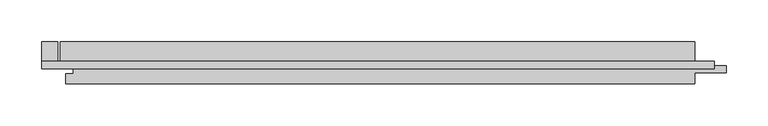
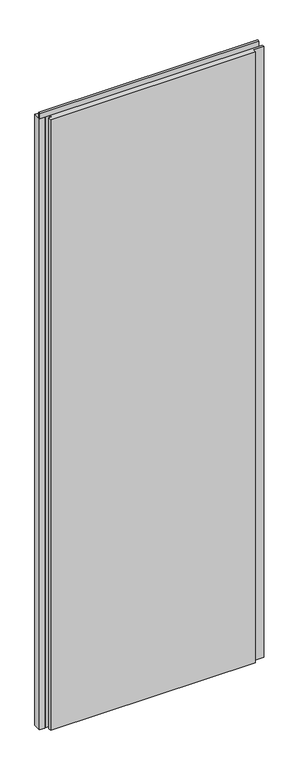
"""IFC4 building model written with IfcOpenShell, lengths in millimetres: plate geometry, Trimo_Qbiss Screen_Normal Panel-VERTICAL : HR - B."""

import ifcopenshell
import ifcopenshell.guid

model = None  # the IFC model being written
_history = None  # IfcOwnerHistory: only IFC2X3 demands one
_inside = {}  # id of a spatial element -> (the spatial element, [elements in it])
_under = {}  # id of a project, library or spatial element -> (it, [spatial elements below it])
_declared = {}  # id of a project -> (the project, [libraries it declares])
_typed = {}  # id of a type object -> (the type object, [elements of that type])
_made_of = {}  # id of a material, layer set ... -> (it, [elements and type objects made of it])


def new_model(schema):
    """Start an empty IFC model of exactly this schema.

    Asked for "IFC4X3", IfcOpenShell would pick the latest addendum, in which some entities
    have other attributes; the version numbers below select the first issue.
    IFC2X3 requires an IfcOwnerHistory on every rooted entity: one is made here for all.
    """
    global model, _history
    if schema == "IFC4X3":
        model = ifcopenshell.file(schema_version=(4, 3, 0, 0))
    else:
        model = ifcopenshell.file(schema=schema)
    _inside.clear()
    _under.clear()
    _declared.clear()
    _typed.clear()
    _made_of.clear()
    _history = None
    if model.schema == "IFC2X3":
        org = make("IfcOrganization", Name="unknown")
        user = make(
            "IfcPersonAndOrganization",
            ThePerson=make("IfcPerson", FamilyName="unknown"),
            TheOrganization=org,
        )
        app = make(
            "IfcApplication",
            ApplicationDeveloper=org,
            Version="unknown",
            ApplicationFullName="unknown",
            ApplicationIdentifier="unknown",
        )
        _history = make(
            "IfcOwnerHistory",
            OwningUser=user,
            OwningApplication=app,
            ChangeAction="ADDED",
            CreationDate=0,
        )
    return model


def make(cls, **values):
    """One entity of the class cls with the attributes given. An attribute that is None is left unset."""
    return model.create_entity(
        cls, **{name: value for name, value in values.items() if value is not None}
    )


def rooted(cls, **values):
    """An entity with a GlobalId (a new one), such as an element, a storey or a relation."""
    return make(cls, GlobalId=ifcopenshell.guid.new(), OwnerHistory=_history, **values)


def si_unit(unit_type, name, prefix=None):
    """IfcSIUnit, for example si_unit("LENGTHUNIT", "METRE", prefix="MILLI")."""
    return make("IfcSIUnit", UnitType=unit_type, Prefix=prefix, Name=name)


def assignment(units):
    """IfcUnitAssignment: the units of a project."""
    return None if units is None else make("IfcUnitAssignment", Units=units)


def point(xyz):
    """IfcCartesianPoint."""
    return None if xyz is None else make("IfcCartesianPoint", Coordinates=xyz)


def direction(xyz):
    """IfcDirection."""
    return None if xyz is None else make("IfcDirection", DirectionRatios=xyz)


def frame(location, z_axis=None, x_axis=None):
    """IfcAxis2Placement3D, a coordinate frame: its origin and axes. An axis left out is left unset."""
    return make(
        "IfcAxis2Placement3D",
        Location=point(location),
        Axis=direction(z_axis),
        RefDirection=direction(x_axis),
    )


def origin():
    """The frame at (0, 0, 0) with its axes left unset."""
    return frame((0.0, 0.0, 0.0))


def place(relative_to, where):
    """IfcLocalPlacement: puts the frame where relative to a parent placement (None: the world)."""
    return make(
        "IfcLocalPlacement", PlacementRelTo=relative_to, RelativePlacement=where
    )


def context(
    kind, dimensions, precision=None, world=None, true_north=None, identifier=None
):
    """IfcGeometricRepresentationContext, for example the 3D "Model" context."""
    return make(
        "IfcGeometricRepresentationContext",
        ContextIdentifier=identifier,
        ContextType=kind,
        CoordinateSpaceDimension=dimensions,
        Precision=precision,
        WorldCoordinateSystem=world,
        TrueNorth=true_north,
    )


def project(units=None, contexts=None):
    """IfcProject with its units and contexts."""
    return rooted(
        "IfcProject",
        Name="project",
        RepresentationContexts=contexts,
        UnitsInContext=assignment(units),
    )


def spatial(cls, under=None, at=None, **own):
    """A site, building, storey or space (cls), placed at a placement, below another one or the project."""
    s = rooted(cls, ObjectPlacement=at, **own)
    if under is not None:
        _under.setdefault(under.id(), (under, []))[1].append(s)
    return s


def polyline(points):
    """IfcPolyline through the points."""
    return make("IfcPolyline", Points=[point(p) for p in points])


def outline(outer, holes=None, kind="AREA"):
    """IfcArbitraryClosedProfileDef: a profile drawn as a closed curve; with holes, ...WithVoids."""
    if holes is None:
        return make("IfcArbitraryClosedProfileDef", ProfileType=kind, OuterCurve=outer)
    return make(
        "IfcArbitraryProfileDefWithVoids",
        ProfileType=kind,
        OuterCurve=outer,
        InnerCurves=holes,
    )


def extrude(swept, where, along, depth):
    """IfcExtrudedAreaSolid: the profile swept, set in the frame where, extruded along a direction by depth."""
    return make(
        "IfcExtrudedAreaSolid",
        SweptArea=swept,
        Position=where,
        ExtrudedDirection=direction(along),
        Depth=depth,
    )


def shape(context_of_items, identifier, shape_type, items):
    """IfcShapeRepresentation: the items that make up one representation, for example the "Body"."""
    return make(
        "IfcShapeRepresentation",
        ContextOfItems=context_of_items,
        RepresentationIdentifier=identifier,
        RepresentationType=shape_type,
        Items=items,
    )


def source(mapping_origin, context_of_items, identifier, shape_type, items):
    """IfcRepresentationMap: a shape defined once, which mapped items show again and again."""
    return make(
        "IfcRepresentationMap",
        MappingOrigin=mapping_origin,
        MappedRepresentation=shape(context_of_items, identifier, shape_type, items),
    )


def transform(
    local_origin,
    x_axis=None,
    y_axis=None,
    z_axis=None,
    scale=None,
    scale2=None,
    scale3=None,
    uniform=True,
):
    """IfcCartesianTransformationOperator3D, or its non-uniform kind. x_axis, y_axis, z_axis: its Axis1, 2, 3."""
    if uniform:
        return make(
            "IfcCartesianTransformationOperator3D",
            Axis1=direction(x_axis),
            Axis2=direction(y_axis),
            LocalOrigin=point(local_origin),
            Scale=scale,
            Axis3=direction(z_axis),
        )
    return make(
        "IfcCartesianTransformationOperator3DnonUniform",
        Axis1=direction(x_axis),
        Axis2=direction(y_axis),
        LocalOrigin=point(local_origin),
        Scale=scale,
        Axis3=direction(z_axis),
        Scale2=scale2,
        Scale3=scale3,
    )


def mapped(mapping_source, mapping_target):
    """IfcMappedItem: shows the shape of a source again, moved by a transform."""
    return make(
        "IfcMappedItem", MappingSource=mapping_source, MappingTarget=mapping_target
    )


def made_of(thing, what):
    """Note that an element or type object is made of a material, layer set ...; save() writes the relation."""
    if what is not None:
        _made_of.setdefault(what.id(), (what, []))[1].append(thing)
    return thing


def element(
    cls,
    number,
    at=None,
    inside=None,
    cuts=None,
    type_object=None,
    material=None,
    context=None,
    identifier="Body",
    shape_type=None,
    held_by="IfcProductDefinitionShape",
    body=None,
    shapes=None,
    **own,
):
    """One element of the class cls, such as IfcWall. Its Tag is "e" and its number.

    at: its placement. inside: the storey or other place that contains it. cuts: it is an
    opening in that element (IfcRelVoidsElement). A single representation is given by context,
    identifier, shape_type and body (its items); several are given by shapes. held_by: the class
    of the entity that holds the representations. save() writes the other relations.
    """
    e = rooted(cls, Tag="e%d" % number, ObjectPlacement=at, **own)
    if body is not None:
        shapes = [shape(context, identifier, shape_type, body)]
    if shapes is not None:
        e.Representation = make(held_by, Representations=shapes)
    if inside is not None:
        _inside.setdefault(inside.id(), (inside, []))[1].append(e)
    if cuts is not None:
        rooted(
            "IfcRelVoidsElement", RelatingBuildingElement=cuts, RelatedOpeningElement=e
        )
    if type_object is not None:
        _typed.setdefault(type_object.id(), (type_object, []))[1].append(e)
    return made_of(e, material)


def aggregate(whole, parts):
    """IfcRelAggregates: a whole, such as a stair, and the parts it consists of."""
    return rooted("IfcRelAggregates", RelatingObject=whole, RelatedObjects=parts)


def save(model, path):
    """Write the relations noted so far, then the file.

    IfcRelAggregates (storeys below a building ...), IfcRelContainedInSpatialStructure (elements
    in a storey), IfcRelDefinesByType, IfcRelAssociatesMaterial and IfcRelDeclares: one each for
    every whole, place, type object, material and project.
    """
    for whole, parts in _under.values():
        aggregate(whole, parts)
    for where, things in _inside.values():
        rooted(
            "IfcRelContainedInSpatialStructure",
            RelatedElements=things,
            RelatingStructure=where,
        )
    for kind, things in _typed.values():
        rooted("IfcRelDefinesByType", RelatedObjects=things, RelatingType=kind)
    for what, things in _made_of.values():
        rooted("IfcRelAssociatesMaterial", RelatedObjects=things, RelatingMaterial=what)
    for by, libraries in _declared.values():
        rooted("IfcRelDeclares", RelatingContext=by, RelatedDefinitions=libraries)
    model.write(path)


def plate_48e415e9(model_context):
    return source(origin(), model_context, "Body", "SweptSolid", [
        extrude(outline(polyline([(-338.0, 97.0), (-338.0, 126.0), (-319.0, 126.0), (-319.0, 97.0), (-338.0, 97.0)])), frame((0.0, 0.0, 12.5), z_axis=(0.0, 0.0, 1.0), x_axis=(1.0, 0.0, 0.0)), (0.0, 0.0, 1.0), 2375.0),
        extrude(outline(polyline([(445.0, 97.0), (445.0, 102.6), (466.0, 102.6), (466.0, 97.0), (445.0, 97.0)])), frame((0.0, 0.0, 12.5), z_axis=(0.0, 0.0, 1.0), x_axis=(1.0, 0.0, 0.0)), (0.0, 0.0, 1.0), 2375.0),
        extrude(outline(polyline([(-338.0, 93.9), (-338.0, 102.6), (467.0, 102.6), (467.0, 93.9), (-338.0, 93.9)])), frame((0.0, 0.0, 2390.5), z_axis=(0.0, 0.0, 1.0), x_axis=(1.0, 0.0, 0.0)), (0.0, 0.0, 1.0), 19.0),
        extrude(outline(polyline([(444.0, 97.0), (481.5, 97.0), (481.5, 89.0), (444.0, 89.0), (444.0, 76.0), (-309.0, 76.0), (-309.0, 88.0), (-300.5, 88.0), (-300.5, 98.0), (-316.0, 98.0), (-316.0, 126.0), (444.0, 126.0), (444.0, 97.0)])), frame((0.0, 0.0, 12.5), z_axis=(0.0, 0.0, 1.0), x_axis=(1.0, 0.0, 0.0)), (0.0, 0.0, 1.0), 2375.0),
    ])


if __name__ == "__main__":
    model = new_model("IFC4")
    model_context = context("Model", 3, world=origin())
    ifc_project = project(units=[si_unit("LENGTHUNIT", "METRE", prefix="MILLI")], contexts=[model_context])
    site = spatial("IfcSite", under=ifc_project)
    building = spatial("IfcBuilding", under=site)
    placement = place(None, origin())
    plate_shape = plate_48e415e9(model_context)
    element("IfcPlate", 1, ObjectType="Trimo_Qbiss Screen_Normal Panel-VERTICAL : HR - B", at=placement, inside=building, context=model_context, shape_type="MappedRepresentation", body=[
        mapped(plate_shape, transform((0.0, 0.0, 0.0), x_axis=(1.0, 0.0, 0.0), y_axis=(0.0, 1.0, 0.0), z_axis=(0.0, 0.0, 1.0))),
    ])
    save(model, "model.ifc")
